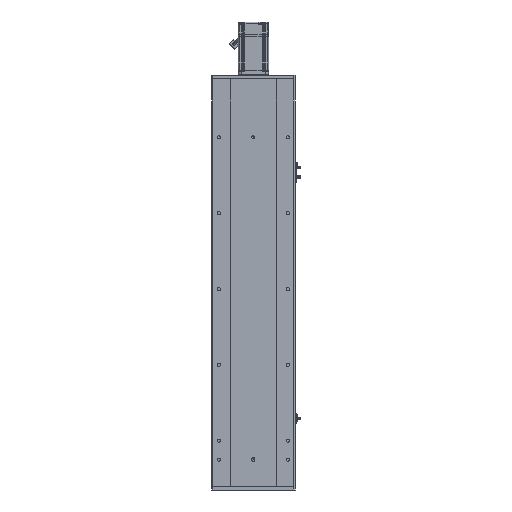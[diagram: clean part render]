
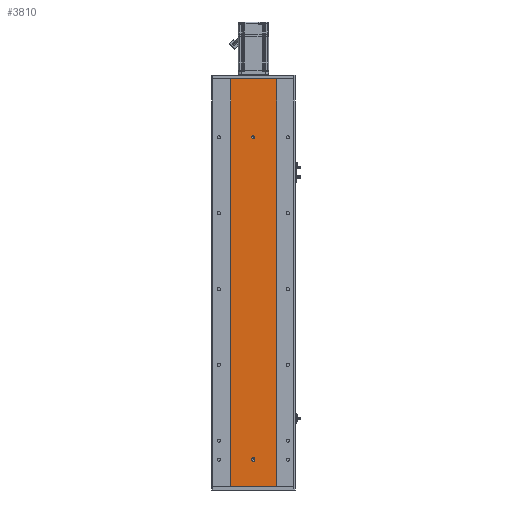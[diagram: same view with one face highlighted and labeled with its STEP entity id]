
A CAD part, front view. The second image highlights one B-rep face of the part: STEP entity #3810.
In plain terms, the highlighted planar face has unit normal (0, -1, 0).
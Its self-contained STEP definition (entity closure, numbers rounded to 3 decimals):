
#338 = VERTEX_POINT ( 'NONE', #24551 ) ;
#633 = CARTESIAN_POINT ( 'NONE',  ( -60., 0., 0. ) ) ;
#691 = CIRCLE ( 'NONE', #44731, 4. ) ;
#853 = FACE_OUTER_BOUND ( 'NONE', #51547, .T. ) ;
#1077 = AXIS2_PLACEMENT_3D ( 'NONE', #50471, #66670, #14286 ) ;
#2813 = VECTOR ( 'NONE', #27217, 1000. ) ;
#2909 = LINE ( 'NONE', #6495, #61538 ) ;
#2929 = ORIENTED_EDGE ( 'NONE', *, *, #25257, .F. ) ;
#3133 = CARTESIAN_POINT ( 'NONE',  ( 0., 0., 64.5 ) ) ;
#3550 = CARTESIAN_POINT ( 'NONE',  ( 0., 0., 71.5 ) ) ;
#3810 = ADVANCED_FACE ( 'NONE', ( #6535, #49656, #853 ), #5133, .F. ) ;
#3975 = CARTESIAN_POINT ( 'NONE',  ( 60., 0., 1074. ) ) ;
#4245 = DIRECTION ( 'NONE',  ( 0., 0., 1. ) ) ;
#5133 = PLANE ( 'NONE',  #66486 ) ;
#5436 = CIRCLE ( 'NONE', #35193, 4. ) ;
#5897 = VERTEX_POINT ( 'NONE', #633 ) ;
#5960 = CARTESIAN_POINT ( 'NONE',  ( -4., 0., 71.5 ) ) ;
#6320 = EDGE_CURVE ( 'NONE', #13520, #51003, #5436, .T. ) ;
#6495 = CARTESIAN_POINT ( 'NONE',  ( -60., 0., 1074. ) ) ;
#6535 = FACE_BOUND ( 'NONE', #56654, .T. ) ;
#6738 = VERTEX_POINT ( 'NONE', #31252 ) ;
#7152 = CARTESIAN_POINT ( 'NONE',  ( 0., 0., 920. ) ) ;
#9898 = EDGE_CURVE ( 'NONE', #50284, #51096, #20975, .T. ) ;
#12665 = CARTESIAN_POINT ( 'NONE',  ( 0., 0., 920. ) ) ;
#13106 = AXIS2_PLACEMENT_3D ( 'NONE', #3550, #51067, #55431 ) ;
#13520 = VERTEX_POINT ( 'NONE', #3133 ) ;
#13619 = LINE ( 'NONE', #58679, #65789 ) ;
#14286 = DIRECTION ( 'NONE',  ( 0., 0., -1. ) ) ;
#15791 = DIRECTION ( 'NONE',  ( 0., 1., 0. ) ) ;
#16827 = VERTEX_POINT ( 'NONE', #25760 ) ;
#19050 = EDGE_CURVE ( 'NONE', #51096, #6738, #50828, .T. ) ;
#20599 = LINE ( 'NONE', #33264, #46607 ) ;
#20975 = CIRCLE ( 'NONE', #13106, 4. ) ;
#21814 = CARTESIAN_POINT ( 'NONE',  ( 0., 0., 916. ) ) ;
#22485 = DIRECTION ( 'NONE',  ( 0., 0., -1. ) ) ;
#22741 = ORIENTED_EDGE ( 'NONE', *, *, #31435, .F. ) ;
#23337 = ORIENTED_EDGE ( 'NONE', *, *, #39117, .F. ) ;
#24551 = CARTESIAN_POINT ( 'NONE',  ( 0., 0., 924. ) ) ;
#24604 = EDGE_CURVE ( 'NONE', #5897, #42261, #13619, .T. ) ;
#25257 = EDGE_CURVE ( 'NONE', #51003, #50284, #56707, .T. ) ;
#25500 = EDGE_CURVE ( 'NONE', #16827, #5897, #2909, .T. ) ;
#25522 = AXIS2_PLACEMENT_3D ( 'NONE', #7152, #27380, #27831 ) ;
#25760 = CARTESIAN_POINT ( 'NONE',  ( -60., 0., 1074. ) ) ;
#26822 = EDGE_LOOP ( 'NONE', ( #67377, #33145, #2929, #54982, #65339 ) ) ;
#27217 = DIRECTION ( 'NONE',  ( 0., 0., -1. ) ) ;
#27380 = DIRECTION ( 'NONE',  ( 0., -1., 0. ) ) ;
#27831 = DIRECTION ( 'NONE',  ( 0., 0., -1. ) ) ;
#28760 = DIRECTION ( 'NONE',  ( 0., 0., -1. ) ) ;
#30260 = EDGE_CURVE ( 'NONE', #44335, #338, #59473, .T. ) ;
#31252 = CARTESIAN_POINT ( 'NONE',  ( -4., 0., 68.5 ) ) ;
#31435 = EDGE_CURVE ( 'NONE', #338, #44335, #691, .T. ) ;
#32767 = EDGE_CURVE ( 'NONE', #16827, #41183, #20599, .T. ) ;
#33145 = ORIENTED_EDGE ( 'NONE', *, *, #9898, .F. ) ;
#33264 = CARTESIAN_POINT ( 'NONE',  ( -60., 0., 1074. ) ) ;
#34011 = ORIENTED_EDGE ( 'NONE', *, *, #24604, .T. ) ;
#34761 = ORIENTED_EDGE ( 'NONE', *, *, #25500, .T. ) ;
#35114 = CARTESIAN_POINT ( 'NONE',  ( 4., 0., 71.5 ) ) ;
#35139 = ORIENTED_EDGE ( 'NONE', *, *, #30260, .F. ) ;
#35193 = AXIS2_PLACEMENT_3D ( 'NONE', #59084, #54061, #28760 ) ;
#38355 = DIRECTION ( 'NONE',  ( 0., -1., 0. ) ) ;
#39117 = EDGE_CURVE ( 'NONE', #41183, #42261, #50459, .T. ) ;
#40452 = CIRCLE ( 'NONE', #1077, 4. ) ;
#41183 = VERTEX_POINT ( 'NONE', #3975 ) ;
#41658 = CARTESIAN_POINT ( 'NONE',  ( -60., 0., 1074. ) ) ;
#42261 = VERTEX_POINT ( 'NONE', #46363 ) ;
#43353 = CARTESIAN_POINT ( 'NONE',  ( -4., 0., 71.5 ) ) ;
#43963 = CARTESIAN_POINT ( 'NONE',  ( 4., 0., 68.5 ) ) ;
#44335 = VERTEX_POINT ( 'NONE', #21814 ) ;
#44469 = ORIENTED_EDGE ( 'NONE', *, *, #32767, .F. ) ;
#44731 = AXIS2_PLACEMENT_3D ( 'NONE', #12665, #38355, #49095 ) ;
#46363 = CARTESIAN_POINT ( 'NONE',  ( 60., 0., 0. ) ) ;
#46607 = VECTOR ( 'NONE', #54465, 1000. ) ;
#47152 = EDGE_CURVE ( 'NONE', #6738, #13520, #40452, .T. ) ;
#47388 = DIRECTION ( 'NONE',  ( 0., 0., 1. ) ) ;
#47993 = VECTOR ( 'NONE', #22485, 1000. ) ;
#49095 = DIRECTION ( 'NONE',  ( 0., 0., -1. ) ) ;
#49656 = FACE_BOUND ( 'NONE', #26822, .T. ) ;
#50284 = VERTEX_POINT ( 'NONE', #51597 ) ;
#50459 = LINE ( 'NONE', #52559, #47993 ) ;
#50471 = CARTESIAN_POINT ( 'NONE',  ( 0., 0., 68.5 ) ) ;
#50828 = LINE ( 'NONE', #43353, #2813 ) ;
#51003 = VERTEX_POINT ( 'NONE', #43963 ) ;
#51067 = DIRECTION ( 'NONE',  ( 0., -1., 0. ) ) ;
#51096 = VERTEX_POINT ( 'NONE', #5960 ) ;
#51547 = EDGE_LOOP ( 'NONE', ( #34011, #23337, #44469, #34761 ) ) ;
#51597 = CARTESIAN_POINT ( 'NONE',  ( 4., 0., 71.5 ) ) ;
#52559 = CARTESIAN_POINT ( 'NONE',  ( 60., 0., 1074. ) ) ;
#53216 = DIRECTION ( 'NONE',  ( 1., 0., 0. ) ) ;
#54061 = DIRECTION ( 'NONE',  ( 0., -1., 0. ) ) ;
#54465 = DIRECTION ( 'NONE',  ( 1., 0., 0. ) ) ;
#54982 = ORIENTED_EDGE ( 'NONE', *, *, #6320, .F. ) ;
#55431 = DIRECTION ( 'NONE',  ( 0., 0., -1. ) ) ;
#56654 = EDGE_LOOP ( 'NONE', ( #35139, #22741 ) ) ;
#56707 = LINE ( 'NONE', #35114, #57513 ) ;
#57513 = VECTOR ( 'NONE', #4245, 1000. ) ;
#58679 = CARTESIAN_POINT ( 'NONE',  ( -60., 0., 0. ) ) ;
#59084 = CARTESIAN_POINT ( 'NONE',  ( 0., 0., 68.5 ) ) ;
#59473 = CIRCLE ( 'NONE', #25522, 4. ) ;
#61538 = VECTOR ( 'NONE', #62918, 1000. ) ;
#62918 = DIRECTION ( 'NONE',  ( 0., 0., -1. ) ) ;
#65339 = ORIENTED_EDGE ( 'NONE', *, *, #47152, .F. ) ;
#65789 = VECTOR ( 'NONE', #53216, 1000. ) ;
#66486 = AXIS2_PLACEMENT_3D ( 'NONE', #41658, #15791, #47388 ) ;
#66670 = DIRECTION ( 'NONE',  ( 0., -1., 0. ) ) ;
#67377 = ORIENTED_EDGE ( 'NONE', *, *, #19050, .F. ) ;
